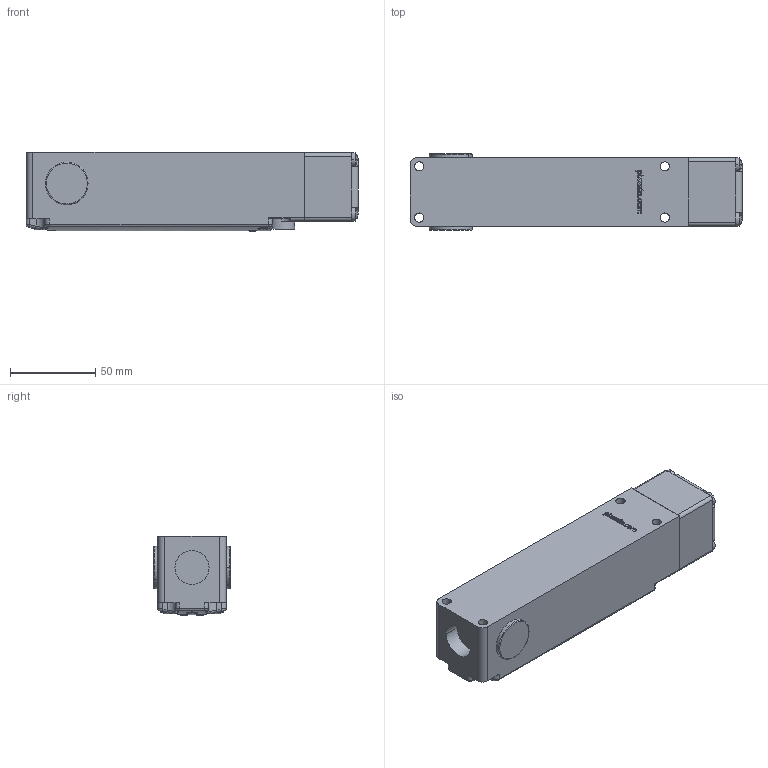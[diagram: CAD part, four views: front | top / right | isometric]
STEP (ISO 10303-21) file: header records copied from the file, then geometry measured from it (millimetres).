
FILE_DESCRIPTION (( 'STEP AP203' ), '1' );
FILE_NAME ('Pizzato_FG_xxxD1DxA.step', '2009-01-29T19:26:04', ( 'Pizzato Elettrica Srl' ), ( '' ), 'SwSTEP 2.0', 'SolidWorks 2008', '' );
FILE_SCHEMA (( 'CONFIG_CONTROL_DESIGN' ));
Length unit declared in the file: millimetre
Products named in the file (4): Pizzato_Supporto_TGD1_TGD1; Pizzato_Custodia_FG_ND Con LED; Pizzato_Tappo_Protezione_PG13_M20_M20x1.5; Pizzato_FG_xxxD1DxA
Assembly tree (4 placements, depth 2):
  Pizzato_FG_xxxD1DxA
    Pizzato_Supporto_TGD1_TGD1
    Pizzato_Tappo_Protezione_PG13_M20_M20x1.5  x2
    Pizzato_Custodia_FG_ND Con LED
Bounding box: 194.6 x 45 x 46.5 mm (x, y, z)
Volume: 329465.9 mm3; surface area: 49851 mm2
Topology: 4 solids, 4 shells, 492 faces, 1264 edges, 824 vertices
Faces by surface type: plane 265, cylinder 120, bspline 79, sphere 18, torus 10
Entity records: 19710 total; most frequent: CARTESIAN_POINT 7948, ORIENTED_EDGE 2496, DIRECTION 2096, EDGE_CURVE 1248, VERTEX_POINT 814, LINE 744, VECTOR 744, AXIS2_PLACEMENT_3D 676
